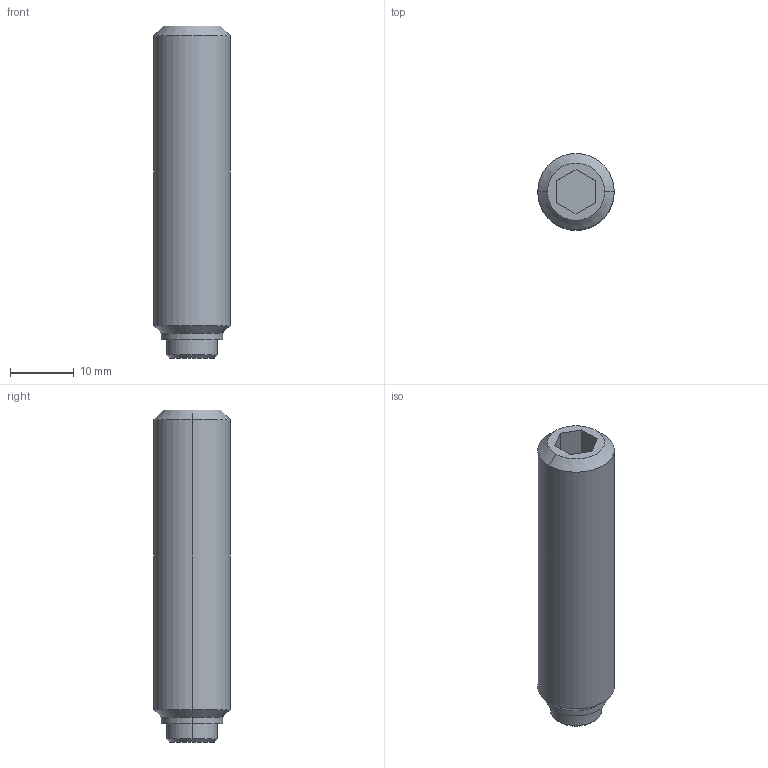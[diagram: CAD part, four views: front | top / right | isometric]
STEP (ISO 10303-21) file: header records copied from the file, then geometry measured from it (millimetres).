
FILE_DESCRIPTION (( 'STEP AP203' ), '1' );
FILE_NAME ('lhssp12x52_1.STEP', '2021-10-25T02:51:52', ( '' ), ( '' ), 'SwSTEP 2.0', 'SolidWorks 2020', '' );
FILE_SCHEMA (( 'CONFIG_CONTROL_DESIGN' ));
Length unit declared in the file: millimetre
Products named in the file (1): lhssp12x52_1
Bounding box: 12 x 12 x 52.1 mm (x, y, z)
Volume: 5352.8 mm3; surface area: 2240.5 mm2
Topology: 1 solids, 1 shells, 22 faces, 46 edges, 28 vertices
Faces by surface type: plane 10, cone 6, cylinder 6
Entity records: 659 total; most frequent: DIRECTION 108, CARTESIAN_POINT 97, ORIENTED_EDGE 92, EDGE_CURVE 46, AXIS2_PLACEMENT_3D 39, LINE 30, VECTOR 30, VERTEX_POINT 28
